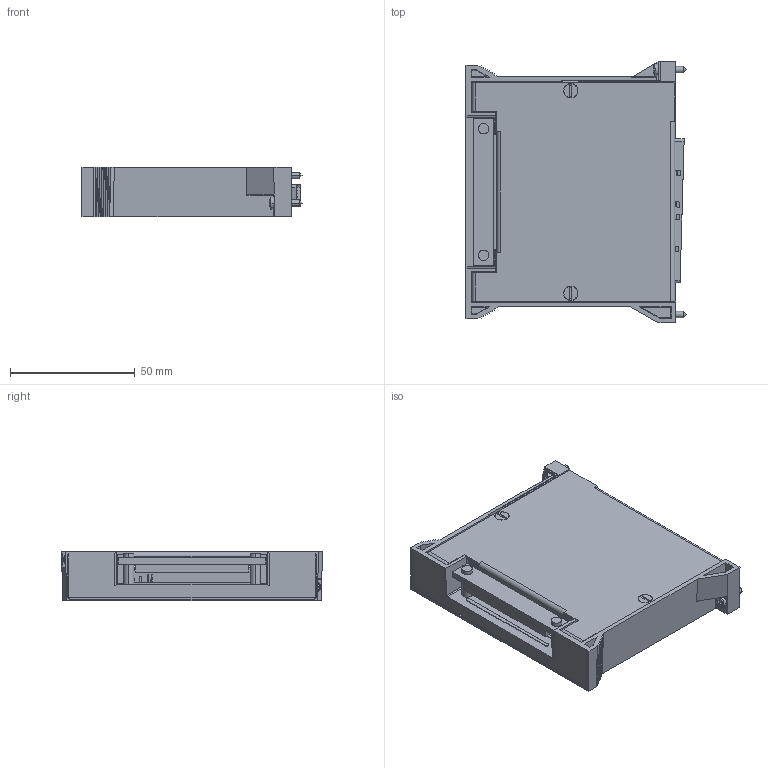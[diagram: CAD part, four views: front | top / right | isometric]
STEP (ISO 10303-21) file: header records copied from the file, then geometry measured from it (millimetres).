
FILE_DESCRIPTION((''),'2;1');
FILE_NAME('CU_TB-2630B','2011-01-21T',('jjorden'),(''),'PRO/ENGINEER BY PARAMETRIC TECHNOLOGY CORPORATION, 2010230','PRO/ENGINEER BY PARAMETRIC TECHNOLOGY CORPORATION, 2010230','');
FILE_SCHEMA(('CONFIG_CONTROL_DESIGN'));
Length unit declared in the file: inch
Products named in the file (1): CU_TB-2630B
Bounding box: 88.31 x 104.78 x 20.02 mm (x, y, z)
Volume: 43783.6 mm3; surface area: 53473.5 mm2
Topology: 1 solids, 1 shells, 1441 faces, 3811 edges, 2394 vertices
Faces by surface type: plane 1030, cylinder 256, bspline 60, cone 58, sphere 25, torus 12
Entity records: 46021 total; most frequent: CARTESIAN_POINT 10527, ORIENTED_EDGE 7494, DIRECTION 6937, EDGE_CURVE 3747, VECTOR 2883, LINE 2883, VERTEX_POINT 2451, AXIS2_PLACEMENT_3D 2027
